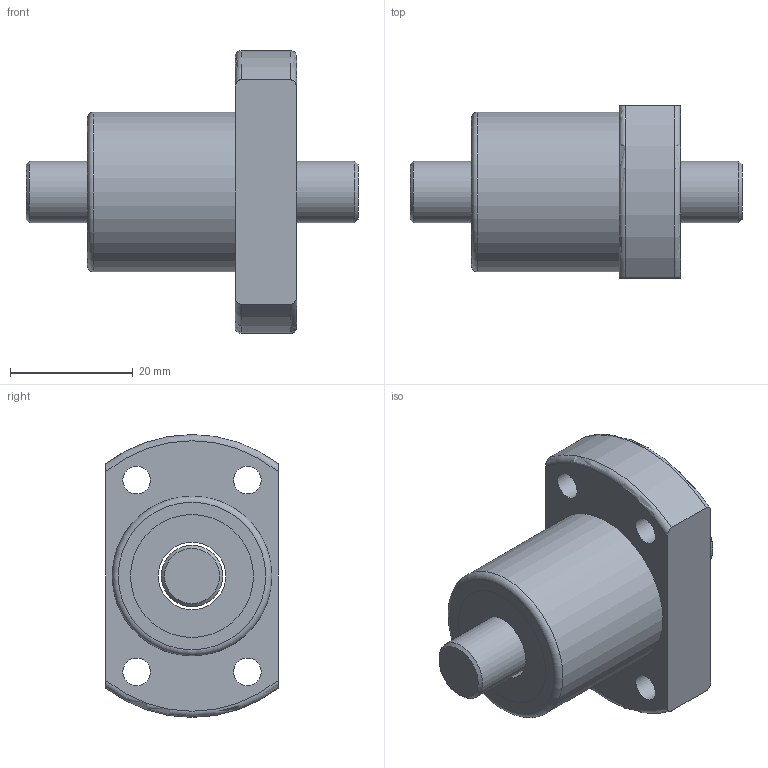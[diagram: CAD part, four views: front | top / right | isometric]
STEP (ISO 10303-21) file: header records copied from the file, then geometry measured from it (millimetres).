
FILE_DESCRIPTION(/* description */ (''),/* implementation_level */ '2;1');
FILE_NAME(/* name */ 'SFK1004',/* time_stamp */ '2007-10-26T10:40:57+08:00',/* author */ (''),/* organization */ (''),/* preprocessor_version */ 'ST-DEVELOPER v9',/* originating_system */ 'EDS PLM SOLUTIONS - UNIGRAPHICS NX 1.0',/* authorisation */ '');
FILE_SCHEMA (('CONFIG_CONTROL_DESIGN'));
Length unit declared in the file: millimetre
Products named in the file (1): FANNDA0400cd
Bounding box: 54 x 28 x 46 mm (x, y, z)
Volume: 24480.3 mm3; surface area: 10695.8 mm2
Topology: 4 solids, 4 shells, 43 faces, 97 edges, 65 vertices
Faces by surface type: cylinder 19, plane 17, torus 5, cone 2
Full cylindrical faces by diameter (mm): 4.5 x4, 8 x4, 10 x1, 11 x3, 20 x4, 26 x1
Entity records: 1224 total; most frequent: CARTESIAN_POINT 254, DIRECTION 194, ORIENTED_EDGE 138, AXIS2_PLACEMENT_3D 93, EDGE_LOOP 80, EDGE_CURVE 69, VERTEX_POINT 57, FACE_BOUND 55
